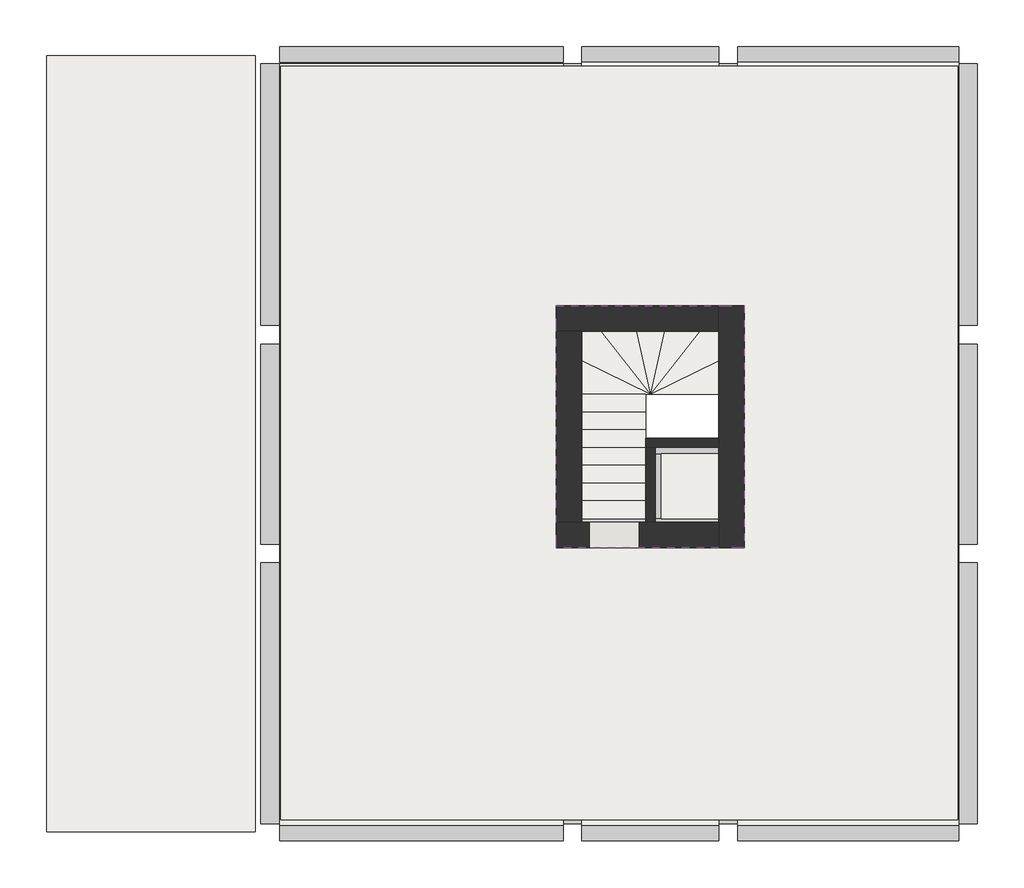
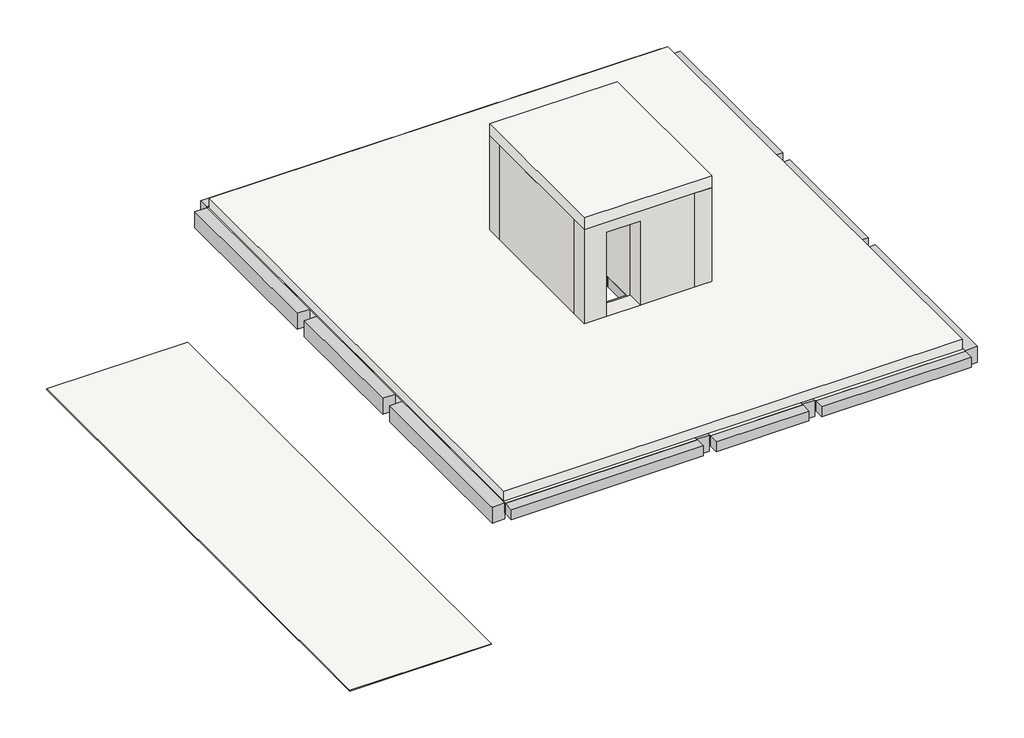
# One storey, incomplete: 22 beams, 8 slabs, 6 walls, 2 roofs.
"""IFC4 building model written with IfcOpenShell, lengths in millimetres."""

from ifc_helpers import new_model, si_unit, frame, origin, place, context, project, spatial, polyline, outline, extrude, faceted_brep, transform, mapped, element, save
from components import slab_45828cb8, escalera_tramo_1_escalera_tramo_2_78cb8bb0

model = new_model("IFC4")

# Units and contexts
model_context = context("Model", 3, world=origin())
ifc_project = project(units=[si_unit("LENGTHUNIT", "METRE", prefix="MILLI")], contexts=[model_context])

# Site, building, storey
site = spatial("IfcSite", under=ifc_project)
building = spatial("IfcBuilding", under=site)
storey = spatial("IfcBuildingStorey", under=building, Name="03.ES.CUBIERTA", Elevation=6780.0)

# Beams
placement = place(None, origin())
element("IfcBeam", 1, ObjectType="Hormigón-Viga rectangular : 250 x 250 mm", at=placement, inside=storey, context=model_context, shape_type="SweptSolid", body=[
    extrude(outline(polyline([(11715.0, 475.0), (11715.0, 725.0), (15265.0, 725.0), (15265.0, 475.0), (11715.0, 475.0)])), frame((0.0, 0.0, 6530.0), z_axis=(0.0, 0.0, 1.0), x_axis=(1.0, 0.0, 0.0)), (0.0, 0.0, 1.0), 250.0),
])
element("IfcBeam", 2, ObjectType="Hormigón-Viga rectangular : 250 x 250 mm", at=placement, inside=storey, context=model_context, shape_type="SweptSolid", body=[
    extrude(outline(polyline([(9215.0, 475.0), (9215.0, 725.0), (11415.0, 725.0), (11415.0, 475.0), (9215.0, 475.0)])), frame((0.0, 0.0, 6530.0), z_axis=(0.0, 0.0, 1.0), x_axis=(1.0, 0.0, 0.0)), (0.0, 0.0, 1.0), 250.0),
])
element("IfcBeam", 3, ObjectType="Hormigón-Viga rectangular : 250 x 250 mm", at=placement, inside=storey, context=model_context, shape_type="SweptSolid", body=[
    extrude(outline(polyline([(4365.0, 475.0), (4365.0, 725.0), (8915.0, 725.0), (8915.0, 475.0), (4365.0, 475.0)])), frame((0.0, 0.0, 6530.0), z_axis=(0.0, 0.0, 1.0), x_axis=(1.0, 0.0, 0.0)), (0.0, 0.0, 1.0), 250.0),
])
element("IfcBeam", 4, ObjectType="Hormigón-Viga rectangular : 250 x 250 mm", at=placement, inside=storey, context=model_context, shape_type="SweptSolid", body=[
    extrude(outline(polyline([(11715.0, 12975.0), (11715.0, 13225.0), (15265.0, 13225.0), (15265.0, 12975.0), (11715.0, 12975.0)])), frame((0.0, 0.0, 6530.0), z_axis=(0.0, 0.0, 1.0), x_axis=(1.0, 0.0, 0.0)), (0.0, 0.0, 1.0), 250.0),
])
element("IfcBeam", 5, ObjectType="Hormigón-Viga rectangular : 250 x 250 mm", at=placement, inside=storey, context=model_context, shape_type="SweptSolid", body=[
    extrude(outline(polyline([(9215.0, 12975.0), (9215.0, 13225.0), (11415.0, 13225.0), (11415.0, 12975.0), (9215.0, 12975.0)])), frame((0.0, 0.0, 6530.0), z_axis=(0.0, 0.0, 1.0), x_axis=(1.0, 0.0, 0.0)), (0.0, 0.0, 1.0), 250.0),
])
element("IfcBeam", 6, ObjectType="Hormigón-Viga rectangular : 250 x 250 mm", at=placement, inside=storey, context=model_context, shape_type="SweptSolid", body=[
    extrude(outline(polyline([(8915.0, 13225.0), (8915.0, 12975.0), (4365.0, 12975.0), (4365.0, 13225.0), (8915.0, 13225.0)])), frame((0.0, 0.0, 6530.0), z_axis=(0.0, 0.0, 1.0), x_axis=(1.0, 0.0, 0.0)), (0.0, 0.0, 1.0), 250.0),
])
element("IfcBeam", 7, ObjectType="Hormigón-Viga rectangular : 250 x 250 mm", at=placement, inside=storey, context=model_context, shape_type="Brep", body=[
    faceted_brep([(11415.0, 5400.0, 6780.0), (11415.0, 5650.0, 6780.0), (10490.0, 5650.0, 6780.0), (10240.0, 5650.0, 6780.0), (9215.0, 5650.0, 6780.0), (9215.0, 5400.0, 6780.0), (11415.0, 5650.0, 6530.0), (10490.0, 5650.0, 6530.0), (10240.0, 5650.0, 6530.0), (9215.0, 5650.0, 6530.0), (11415.0, 5400.0, 6530.0), (9215.0, 5400.0, 6530.0)], [[[0, 1, 2, 3, 4, 5]], [[1, 6, 7, 8, 9, 4, 3, 2]], [[6, 10, 11, 9, 8, 7]], [[10, 0, 5, 11]], [[1, 0, 10, 6]], [[5, 4, 9, 11]]]),
])
element("IfcBeam", 8, ObjectType="Hormigón-Viga rectangular : 250 x 250 mm", at=placement, inside=storey, context=model_context, shape_type="Brep", body=[
    faceted_brep([(10240.0, 6940.0, 6780.0), (10240.0, 6690.0, 6780.0), (10490.0, 6690.0, 6780.0), (11415.0, 6690.0, 6780.0), (11415.0, 6940.0, 6780.0), (10240.0, 6940.0, 6530.0), (11415.0, 6940.0, 6530.0), (10240.0, 6690.0, 6530.0), (11415.0, 6690.0, 6530.0), (10490.0, 6690.0, 6530.0)], [[[0, 1, 2, 3, 4]], [[5, 0, 4, 6]], [[7, 5, 6, 8, 9]], [[1, 7, 9, 8, 3, 2]], [[4, 3, 8, 6]], [[1, 0, 5, 7]]]),
])
element("IfcBeam", 9, ObjectType="Hormigón-Viga rectangular : 250 x 250 mm", at=placement, inside=storey, context=model_context, shape_type="SweptSolid", body=[
    extrude(outline(polyline([(10240.0, 6690.0), (10490.0, 6690.0), (10490.0, 5650.0), (10240.0, 5650.0), (10240.0, 6690.0)])), frame((0.0, 0.0, 6530.0), z_axis=(0.0, 0.0, 1.0), x_axis=(1.0, 0.0, 0.0)), (0.0, 0.0, 1.0), 250.0),
])
element("IfcBeam", 10, ObjectType="Hormigón-Viga rectangular : 250 x 250 mm", at=placement, inside=storey, context=model_context, shape_type="Brep", body=[
    faceted_brep([(11565.0, 8905.0, 6780.0), (11415.0, 8905.0, 6780.0), (9215.0, 8905.0, 6780.0), (9065.0, 8905.0, 6780.0), (9065.0, 8750.0, 6780.0), (9215.0, 8750.0, 6780.0), (9215.0, 8655.0, 6780.0), (11415.0, 8655.0, 6780.0), (11415.0, 8750.0, 6780.0), (11565.0, 8750.0, 6780.0), (11565.0, 8905.0, 6530.0), (11415.0, 8905.0, 6530.0), (9215.0, 8905.0, 6530.0), (9065.0, 8905.0, 6530.0), (11565.0, 8750.0, 6530.0), (11415.0, 8750.0, 6530.0), (11415.0, 8655.0, 6530.0), (9215.0, 8655.0, 6530.0), (9215.0, 8750.0, 6530.0), (9065.0, 8750.0, 6530.0)], [[[0, 1, 2, 3, 4, 5, 6, 7, 8, 9]], [[3, 2, 1, 0, 10, 11, 12, 13]], [[13, 12, 11, 10, 14, 15, 16, 17, 18, 19]], [[6, 17, 16, 7]], [[3, 13, 19, 4]], [[10, 0, 9, 14]], [[18, 5, 4, 19]], [[5, 18, 17, 6]], [[8, 15, 14, 9]], [[15, 8, 7, 16]]]),
])
element("IfcBeam", 11, ObjectType="Hormigón-Viga rectangular : 300 x 400 mm", at=placement, inside=storey, context=model_context, shape_type="Brep", body=[
    faceted_brep([(15565.0, 4940.0610844, 6780.0), (15265.0, 4940.0610844, 6780.0), (15265.0, 750.0, 6780.0), (15565.0, 750.0, 6780.0), (15565.0, 815.0, 6780.0), (15565.0, 4940.0610844, 6380.0), (15565.0, 750.0, 6380.0), (15565.0, 815.0, 6380.0), (15265.0, 4940.0610844, 6380.0), (15265.0, 750.0, 6380.0), (15265.0, 815.0, 6380.0)], [[[0, 1, 2, 3, 4]], [[5, 0, 4, 3, 6, 7]], [[8, 5, 7, 6, 9, 10]], [[1, 8, 10, 9, 2]], [[1, 0, 5, 8]], [[2, 9, 6, 3]]]),
])
element("IfcBeam", 12, ObjectType="Hormigón-Viga rectangular : 300 x 400 mm", at=placement, inside=storey, context=model_context, shape_type="SweptSolid", body=[
    extrude(outline(polyline([(15265.0, 8450.0), (15565.0, 8450.0), (15565.0, 5240.0610844), (15265.0, 5240.0610844), (15265.0, 8450.0)])), frame((0.0, 0.0, 6380.0), z_axis=(0.0, 0.0, 1.0), x_axis=(1.0, 0.0, 0.0)), (0.0, 0.0, 1.0), 400.0),
])
element("IfcBeam", 13, ObjectType="Hormigón-Viga rectangular : 300 x 400 mm", at=placement, inside=storey, context=model_context, shape_type="SweptSolid", body=[
    extrude(outline(polyline([(15265.0, 12950.0), (15565.0, 12950.0), (15565.0, 8750.0), (15265.0, 8750.0), (15265.0, 12950.0)])), frame((0.0, 0.0, 6380.0), z_axis=(0.0, 0.0, 1.0), x_axis=(1.0, 0.0, 0.0)), (0.0, 0.0, 1.0), 400.0),
])
element("IfcBeam", 14, ObjectType="Hormigón-Viga rectangular : 300 x 400 mm", at=placement, inside=storey, context=model_context, shape_type="SweptSolid", body=[
    extrude(outline(polyline([(11415.0, 4940.0610844), (11715.0, 4940.0610844), (11715.0, 750.0), (11415.0, 750.0), (11415.0, 4940.0610844)])), frame((0.0, 0.0, 6380.0), z_axis=(0.0, 0.0, 1.0), x_axis=(1.0, 0.0, 0.0)), (0.0, 0.0, 1.0), 400.0),
])
element("IfcBeam", 15, ObjectType="Hormigón-Viga rectangular : 300 x 400 mm", at=placement, inside=storey, context=model_context, shape_type="Brep", body=[
    faceted_brep([(11715.0, 8450.0, 6780.0), (11415.0, 8450.0, 6780.0), (11415.0, 6940.0, 6780.0), (11415.0, 6690.0, 6780.0), (11415.0, 5650.0, 6780.0), (11415.0, 5400.0, 6780.0), (11415.0, 5240.0610844, 6780.0), (11715.0, 5240.0610844, 6780.0), (11715.0, 8450.0, 6380.0), (11715.0, 5240.0610844, 6380.0), (11415.0, 8450.0, 6380.0), (11565.0, 8450.0, 6380.0), (11415.0, 5240.0610844, 6380.0), (11415.0, 6540.0, 6380.0)], [[[0, 1, 2, 3, 4, 5, 6, 7]], [[8, 0, 7, 9]], [[10, 11, 8, 9, 12, 13]], [[1, 10, 13, 12, 6, 5, 4, 3, 2]], [[1, 0, 8, 11, 10]], [[6, 12, 9, 7]]]),
])
element("IfcBeam", 16, ObjectType="Hormigón-Viga rectangular : 300 x 400 mm", at=placement, inside=storey, context=model_context, shape_type="Brep", body=[
    faceted_brep([(11715.0, 8750.0, 6780.0), (11715.0, 12950.0, 6780.0), (11415.0, 12950.0, 6780.0), (11415.0, 8905.0, 6780.0), (11565.0, 8905.0, 6780.0), (11565.0, 8750.0, 6780.0), (11715.0, 8750.0, 6380.0), (11715.0, 12950.0, 6380.0), (11415.0, 8750.0, 6380.0), (11415.0, 12950.0, 6380.0), (11415.0, 8750.0, 6530.0), (11415.0, 8905.0, 6530.0), (11565.0, 8750.0, 6530.0), (11565.0, 8905.0, 6530.0)], [[[0, 1, 2, 3, 4, 5]], [[1, 0, 6, 7]], [[7, 6, 8, 9]], [[9, 8, 10, 11, 3, 2]], [[2, 1, 7, 9]], [[8, 6, 0, 5, 12, 10]], [[13, 4, 3, 11]], [[12, 13, 11, 10]], [[4, 13, 12, 5]]]),
])
element("IfcBeam", 17, ObjectType="Hormigón-Viga rectangular : 300 x 400 mm", at=placement, inside=storey, context=model_context, shape_type="SweptSolid", body=[
    extrude(outline(polyline([(8915.0, 4940.0610844), (9215.0, 4940.0610844), (9215.0, 750.0), (8915.0, 750.0), (8915.0, 4940.0610844)])), frame((0.0, 0.0, 6380.0), z_axis=(0.0, 0.0, 1.0), x_axis=(1.0, 0.0, 0.0)), (0.0, 0.0, 1.0), 400.0),
])
element("IfcBeam", 18, ObjectType="Hormigón-Viga rectangular : 300 x 400 mm", at=placement, inside=storey, context=model_context, shape_type="Brep", body=[
    faceted_brep([(9215.0, 8450.0, 6780.0), (8915.0, 8450.0, 6780.0), (8915.0, 5240.0610844, 6780.0), (9215.0, 5240.0610844, 6780.0), (9215.0, 5400.0, 6780.0), (9215.0, 5650.0, 6780.0), (9215.0, 8450.0, 6380.0), (9215.0, 5240.0610844, 6380.0), (9215.0, 6219.1272561, 6380.0), (8915.0, 8450.0, 6380.0), (9065.0, 8450.0, 6380.0), (8915.0, 5240.0610844, 6380.0), (8915.0, 6790.0, 6380.0), (8915.0, 6940.0, 6380.0)], [[[0, 1, 2, 3, 4, 5]], [[6, 0, 5, 4, 3, 7, 8]], [[9, 10, 6, 8, 7, 11, 12, 13]], [[1, 9, 13, 12, 11, 2]], [[1, 0, 6, 10, 9]], [[2, 11, 7, 3]]]),
])
element("IfcBeam", 19, ObjectType="Hormigón-Viga rectangular : 300 x 400 mm", at=placement, inside=storey, context=model_context, shape_type="Brep", body=[
    faceted_brep([(8915.0, 12950.0, 6780.0), (8915.0, 8750.0, 6780.0), (9065.0, 8750.0, 6780.0), (9065.0, 8905.0, 6780.0), (9215.0, 8905.0, 6780.0), (9215.0, 12950.0, 6780.0), (9215.0, 8750.0, 6380.0), (9215.0, 12950.0, 6380.0), (9215.0, 8905.0, 6530.0), (9215.0, 8750.0, 6530.0), (8915.0, 8750.0, 6380.0), (8915.0, 12950.0, 6380.0), (9065.0, 8750.0, 6530.0), (9065.0, 8905.0, 6530.0)], [[[0, 1, 2, 3, 4, 5]], [[6, 7, 5, 4, 8, 9]], [[7, 6, 10, 11]], [[1, 0, 11, 10]], [[0, 5, 7, 11]], [[1, 10, 6, 9, 12, 2]], [[3, 13, 8, 4]], [[8, 13, 12, 9]], [[13, 3, 2, 12]]]),
])
element("IfcBeam", 20, ObjectType="Hormigón-Viga rectangular : 300 x 400 mm", at=placement, inside=storey, context=model_context, shape_type="Brep", body=[
    faceted_brep([(4365.0, 4940.0610844, 6780.0), (4065.0, 4940.0610844, 6780.0), (4065.0, 815.0, 6780.0), (4065.0, 750.0, 6780.0), (4365.0, 750.0, 6780.0), (4365.0, 4940.0610844, 6380.0), (4365.0, 750.0, 6380.0), (4365.0, 815.0, 6380.0), (4065.0, 4940.0610844, 6380.0), (4065.0, 750.0, 6380.0), (4065.0, 815.0, 6380.0)], [[[0, 1, 2, 3, 4]], [[5, 0, 4, 6, 7]], [[8, 5, 7, 6, 9, 10]], [[1, 8, 10, 9, 3, 2]], [[1, 0, 5, 8]], [[3, 9, 6, 4]]]),
])
element("IfcBeam", 21, ObjectType="Hormigón-Viga rectangular : 300 x 400 mm", at=placement, inside=storey, context=model_context, shape_type="SweptSolid", body=[
    extrude(outline(polyline([(4065.0, 8450.0), (4365.0, 8450.0), (4365.0, 5240.0610844), (4065.0, 5240.0610844), (4065.0, 8450.0)])), frame((0.0, 0.0, 6380.0), z_axis=(0.0, 0.0, 1.0), x_axis=(1.0, 0.0, 0.0)), (0.0, 0.0, 1.0), 400.0),
])
element("IfcBeam", 22, ObjectType="Hormigón-Viga rectangular : 300 x 400 mm", at=placement, inside=storey, context=model_context, shape_type="SweptSolid", body=[
    extrude(outline(polyline([(4065.0, 12950.0), (4365.0, 12950.0), (4365.0, 8750.0), (4065.0, 8750.0), (4065.0, 12950.0)])), frame((0.0, 0.0, 6380.0), z_axis=(0.0, 0.0, 1.0), x_axis=(1.0, 0.0, 0.0)), (0.0, 0.0, 1.0), 400.0),
])

# Roofs
element("IfcRoof", 23, ObjectType="Plana invertida transitable", at=placement, inside=storey, context=model_context, shape_type="SweptSolid", body=[
    extrude(outline(polyline([(4385.0, 12906.5177396), (15245.0, 12906.5177396), (15245.0, 815.0), (4385.0, 815.0), (4385.0, 12906.5177396)]), holes=[polyline([(11825.0, 5178.4098097), (11825.0, 9063.9994552), (8805.0, 9063.9994552), (8805.0, 5178.4098097), (11825.0, 5178.4098097)])]), frame((0.0, 0.0, 6780.0), z_axis=(0.0, 0.0, 1.0), x_axis=(1.0, 0.0, 0.0)), (0.0, 0.0, 1.0), 250.0),
])
element("IfcRoof", 24, ObjectType="Plana invertida transitable tipo 2", at=placement, inside=storey, context=model_context, shape_type="SweptSolid", body=[
    extrude(outline(polyline([(625.0, 13075.0), (3975.0, 13075.0), (3975.0, 625.0), (625.0, 625.0), (625.0, 13075.0)])), frame((0.0, 0.0, 3450.0), z_axis=(0.0, 0.0, 1.0), x_axis=(1.0, 0.0, 0.0)), (0.0, 0.0, 1.0), 20.0),
])

# Slabs
element("IfcSlab", 25, ObjectType="Forjado bovedilla + vigueta - 25 cm", at=placement, inside=storey, context=model_context, shape_type="Brep", body=[
    faceted_brep([(8915.0, 12950.0, 6530.0), (8915.0, 12906.5177396, 6530.0), (8915.0, 725.0, 6530.0), (4365.0, 725.0, 6530.0), (4365.0, 815.0, 6530.0), (4365.0, 8750.0, 6530.0), (4365.0, 12950.0, 6530.0), (4385.0, 12950.0, 6530.0), (8915.0, 12950.0, 6780.0), (4385.0, 12950.0, 6780.0), (4365.0, 12950.0, 6780.0), (4365.0, 8750.0, 6780.0), (4365.0, 725.0, 6780.0), (8915.0, 725.0, 6780.0), (8915.0, 12906.5177396, 6780.0)], [[[0, 1, 2, 3, 4, 5, 6, 7]], [[8, 9, 10, 11, 12, 13, 14]], [[2, 1, 0, 8, 14, 13]], [[3, 2, 13, 12]], [[6, 5, 4, 3, 12, 11, 10]], [[0, 7, 6, 10, 9, 8]]]),
])
element("IfcSlab", 26, ObjectType="Forjado bovedilla + vigueta - 25 cm", at=placement, inside=storey, context=model_context, shape_type="SweptSolid", body=[
    extrude(outline(polyline([(11415.0, 5400.0), (11415.0, 725.0), (9215.0, 725.0), (9215.0, 5400.0), (11415.0, 5400.0)])), frame((0.0, 0.0, 6530.0), z_axis=(0.0, 0.0, 1.0), x_axis=(1.0, 0.0, 0.0)), (0.0, 0.0, 1.0), 250.0),
])
element("IfcSlab", 27, ObjectType="Forjado bovedilla + vigueta - 25 cm", at=placement, inside=storey, context=model_context, shape_type="Brep", body=[
    faceted_brep([(15265.0, 12975.0, 6530.0), (15265.0, 12950.0, 6530.0), (15265.0, 12906.5177396, 6530.0), (15265.0, 8750.0, 6530.0), (15265.0, 8450.0, 6530.0), (15265.0, 5240.0610844, 6530.0), (15265.0, 815.0, 6530.0), (15265.0, 750.0, 6530.0), (15265.0, 725.0, 6530.0), (11715.0, 725.0, 6530.0), (11715.0, 750.0, 6530.0), (11715.0, 815.0, 6530.0), (11715.0, 12906.5177396, 6530.0), (11715.0, 12950.0, 6530.0), (11715.0, 12975.0, 6530.0), (15265.0, 12975.0, 6780.0), (11715.0, 12975.0, 6780.0), (11715.0, 12950.0, 6780.0), (11715.0, 12906.5177396, 6780.0), (11715.0, 815.0, 6780.0), (11715.0, 750.0, 6780.0), (11715.0, 725.0, 6780.0), (15265.0, 725.0, 6780.0), (15265.0, 750.0, 6780.0), (15265.0, 815.0, 6780.0), (15265.0, 5240.0610844, 6780.0), (15265.0, 8450.0, 6780.0), (15265.0, 8750.0, 6780.0), (15265.0, 12906.5177396, 6780.0), (15265.0, 12950.0, 6780.0)], [[[0, 1, 2, 3, 4, 5, 6, 7, 8, 9, 10, 11, 12, 13, 14]], [[15, 16, 17, 18, 19, 20, 21, 22, 23, 24, 25, 26, 27, 28, 29]], [[8, 7, 6, 5, 4, 3, 2, 1, 0, 15, 29, 28, 27, 26, 25, 24, 23, 22]], [[9, 8, 22, 21]], [[14, 13, 12, 11, 10, 9, 21, 20, 19, 18, 17, 16]], [[0, 14, 16, 15]]]),
])
element("IfcSlab", 28, ObjectType="Forjado bovedilla + vigueta - 25 cm", at=placement, inside=storey, context=model_context, shape_type="SweptSolid", body=[
    extrude(outline(polyline([(11415.0, 6690.0), (11415.0, 5650.0), (10490.0, 5650.0), (10490.0, 6690.0), (11415.0, 6690.0)])), frame((0.0, 0.0, 6530.0), z_axis=(0.0, 0.0, 1.0), x_axis=(1.0, 0.0, 0.0)), (0.0, 0.0, 1.0), 250.0),
])
element("IfcSlab", 29, ObjectType="Forjado bovedilla + vigueta - 25 cm", at=placement, inside=storey, context=model_context, shape_type="Brep", body=[
    faceted_brep([(11415.0, 12975.0, 6530.0), (11415.0, 12950.0, 6530.0), (11415.0, 12906.5177396, 6530.0), (11415.0, 8905.0, 6530.0), (9215.0, 8905.0, 6530.0), (9215.0, 12906.5177396, 6530.0), (9215.0, 12950.0, 6530.0), (9215.0, 12975.0, 6530.0), (11415.0, 12975.0, 6780.0), (9215.0, 12975.0, 6780.0), (9215.0, 12950.0, 6780.0), (9215.0, 12906.5177396, 6780.0), (9215.0, 8905.0, 6780.0), (11415.0, 8905.0, 6780.0), (11415.0, 12906.5177396, 6780.0), (11415.0, 12950.0, 6780.0)], [[[0, 1, 2, 3, 4, 5, 6, 7]], [[8, 9, 10, 11, 12, 13, 14, 15]], [[3, 2, 1, 0, 8, 15, 14, 13]], [[4, 3, 13, 12]], [[7, 6, 5, 4, 12, 11, 10, 9]], [[0, 7, 9, 8]]]),
])
slab_shape = slab_45828cb8(model_context)
element("IfcSlab", 30, ObjectType="Peldaño 3 : Peldaño 1", at=placement, inside=storey, context=model_context, shape_type="MappedRepresentation", body=[
    mapped(slab_shape, transform((0.0, 0.0, 0.0), x_axis=(1.0, 0.0, 0.0), y_axis=(0.0, 1.0, 0.0), z_axis=(0.0, 0.0, 1.0))),
])
element("IfcSlab", 31, ObjectType="Por defecto - 30 cm", at=placement, inside=storey, context=model_context, shape_type="Brep", body=[
    faceted_brep([(11825.0, 9063.9994552, 9380.0), (11825.0, 5178.4098097, 9380.0), (11415.0, 5178.4098097, 9380.0), (8805.0, 5178.4098097, 9380.0), (8805.0, 5588.4098097, 9380.0), (8805.0, 8653.9994552, 9380.0), (8805.0, 9063.9994552, 9380.0), (11415.0, 9063.9994552, 9380.0), (11825.0, 9063.9994552, 9680.0), (8805.0, 9063.9994552, 9680.0), (8805.0, 5178.4098097, 9680.0), (11825.0, 5178.4098097, 9680.0)], [[[0, 1, 2, 3, 4, 5, 6, 7]], [[8, 9, 10, 11]], [[1, 0, 8, 11]], [[3, 2, 1, 11, 10]], [[6, 5, 4, 3, 10, 9]], [[0, 7, 6, 9, 8]]]),
])
escalera_tramo_1_escalera_tramo_2_shape = escalera_tramo_1_escalera_tramo_2_78cb8bb0(model_context)
element("IfcSlab", 32, ObjectType="escalera tramo 1 : escalera tramo 2", at=placement, inside=storey, context=model_context, shape_type="MappedRepresentation", body=[
    mapped(escalera_tramo_1_escalera_tramo_2_shape, transform((0.0, 0.0, 0.0), x_axis=(1.0, 0.0, 0.0), y_axis=(0.0, 1.0, 0.0), z_axis=(0.0, 0.0, 1.0))),
])

# Walls
element("IfcWall", 33, ObjectType="F3.2", at=placement, inside=storey, context=model_context, shape_type="Brep", body=[
    faceted_brep([(8805.0, 8653.9994552, 6780.0), (9215.0, 8653.9994552, 6780.0), (11415.0, 8653.9994552, 6780.0), (11415.0, 8653.9994552, 9380.0), (9215.0, 8653.9994552, 9380.0), (8805.0, 8653.9994552, 9380.0), (8805.0, 9063.9994552, 6780.0), (8805.0, 9063.9994552, 9380.0), (11415.0, 9063.9994552, 9380.0), (11415.0, 9063.9994552, 6780.0)], [[[0, 1, 2, 3, 4, 5]], [[6, 7, 8, 9]], [[2, 1, 0, 6, 9]], [[5, 4, 3, 8, 7]], [[3, 2, 9, 8]], [[0, 5, 7, 6]]]),
])
element("IfcWall", 34, ObjectType="F3.2", at=placement, inside=storey, context=model_context, shape_type="Brep", body=[
    faceted_brep([(11415.0, 9063.9994552, 6780.0), (11415.0, 8653.9994552, 6780.0), (11415.0, 6940.0, 6780.0), (11415.0, 6790.0, 6780.0), (11415.0, 5588.4098097, 6780.0), (11415.0, 5178.4098097, 6780.0), (11415.0, 5178.4098097, 9380.0), (11415.0, 5588.4098097, 9380.0), (11415.0, 6790.0, 9380.0), (11415.0, 6940.0, 9380.0), (11415.0, 8653.9994552, 9380.0), (11415.0, 9063.9994552, 9380.0), (11825.0, 9063.9994552, 6780.0), (11825.0, 9063.9994552, 9380.0), (11825.0, 5178.4098097, 9380.0), (11825.0, 5178.4098097, 6780.0)], [[[0, 1, 2, 3, 4, 5, 6, 7, 8, 9, 10, 11]], [[12, 13, 14, 15]], [[5, 4, 3, 2, 1, 0, 12, 15]], [[11, 10, 9, 8, 7, 6, 14, 13]], [[0, 11, 13, 12]], [[6, 5, 15, 14]]]),
])
element("IfcWall", 35, ObjectType="F3.2", at=placement, inside=storey, context=model_context, shape_type="Brep", body=[
    faceted_brep([(11415.0, 5588.4098097, 6780.0), (10390.0, 5588.4098097, 6780.0), (10240.0, 5588.4098097, 6780.0), (9215.0, 5588.4098097, 6780.0), (8805.0, 5588.4098097, 6780.0), (8805.0, 5588.4098097, 9380.0), (9215.0, 5588.4098097, 9380.0), (10240.0, 5588.4098097, 9380.0), (10390.0, 5588.4098097, 9380.0), (11415.0, 5588.4098097, 9380.0), (9335.0, 5588.4098097, 9130.0), (9335.0, 5588.4098097, 7030.0), (10135.0, 5588.4098097, 7030.0), (10135.0, 5588.4098097, 9130.0), (8805.0, 5178.4098097, 6780.0), (11415.0, 5178.4098097, 6780.0), (11415.0, 5178.4098097, 9380.0), (8805.0, 5178.4098097, 9380.0), (9335.0, 5178.4098097, 7030.0), (9335.0, 5178.4098097, 9130.0), (10135.0, 5178.4098097, 9130.0), (10135.0, 5178.4098097, 7030.0)], [[[0, 1, 2, 3, 4, 5, 6, 7, 8, 9], [10, 11, 12, 13]], [[14, 15, 16, 17], [18, 19, 20, 21]], [[4, 3, 2, 1, 0, 15, 14]], [[9, 8, 7, 6, 5, 17, 16]], [[0, 9, 16, 15]], [[5, 4, 14, 17]], [[18, 11, 10, 19]], [[19, 10, 13, 20]], [[20, 13, 12, 21]], [[11, 18, 21, 12]]]),
])
element("IfcWall", 36, ObjectType="F3.2", at=placement, inside=storey, context=model_context, shape_type="SweptSolid", body=[
    extrude(outline(polyline([(9215.0, 8653.9994552), (9215.0, 5588.4098097), (8805.0, 5588.4098097), (8805.0, 8653.9994552), (9215.0, 8653.9994552)])), frame((0.0, 0.0, 6780.0), z_axis=(0.0, 0.0, 1.0), x_axis=(1.0, 0.0, 0.0)), (0.0, 0.0, 1.0), 2600.0),
])
element("IfcWall", 37, ObjectType="Por defecto - 15 cm", at=placement, inside=storey, context=model_context, shape_type="Brep", body=[
    faceted_brep([(11415.0, 6940.0, 6780.0), (10240.0, 6940.0, 6780.0), (10240.0, 6940.0, 9380.0), (11415.0, 6940.0, 9380.0), (11415.0, 6790.0, 6780.0), (11415.0, 6790.0, 9380.0), (10390.0, 6790.0, 9380.0), (10240.0, 6790.0, 9380.0), (10240.0, 6790.0, 6780.0), (10390.0, 6790.0, 6780.0)], [[[0, 1, 2, 3]], [[4, 5, 6, 7, 8, 9]], [[1, 0, 4, 9, 8]], [[3, 2, 7, 6, 5]], [[0, 3, 5, 4]], [[2, 1, 8, 7]]]),
])
element("IfcWall", 38, ObjectType="Por defecto - 15 cm", at=placement, inside=storey, context=model_context, shape_type="SweptSolid", body=[
    extrude(outline(polyline([(10240.0, 5588.4098097), (10240.0, 6790.0), (10390.0, 6790.0), (10390.0, 5588.4098097), (10240.0, 5588.4098097)])), frame((0.0, 0.0, 6780.0), z_axis=(0.0, 0.0, 1.0), x_axis=(1.0, 0.0, 0.0)), (0.0, 0.0, 1.0), 2600.0),
])

save(model, "model.ifc")
